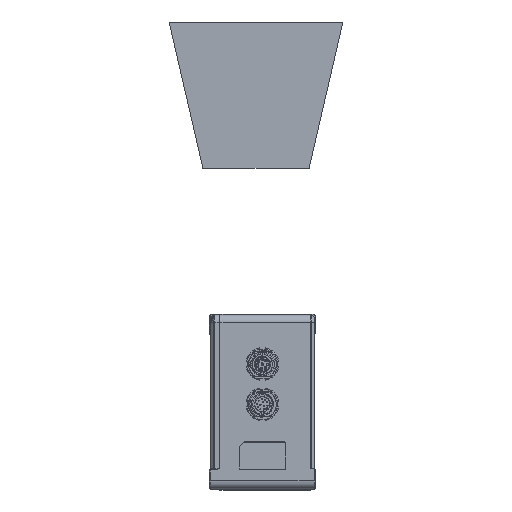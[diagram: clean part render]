
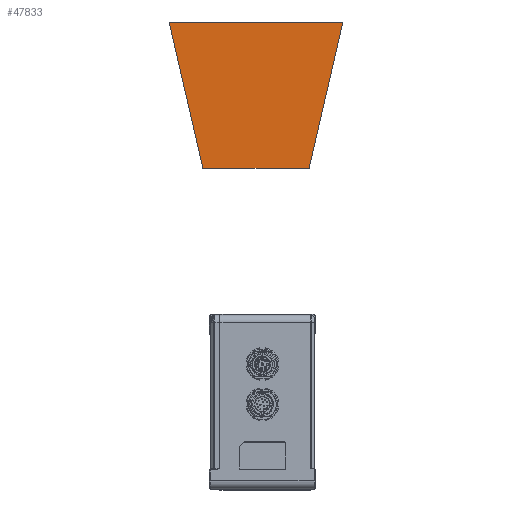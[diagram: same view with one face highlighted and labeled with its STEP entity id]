
A CAD part, left-side view. The second image highlights one B-rep face of the part: STEP entity #47833.
In plain terms, the highlighted planar face has unit normal (-1, 0, 0).
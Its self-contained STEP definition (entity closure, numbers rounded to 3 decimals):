
#47794=DIRECTION('',(0.,1.,0.));
#47795=VECTOR('',#47794,58.);
#47796=CARTESIAN_POINT('',(-605.475,36.318,
-197.858));
#47797=LINE('',#47796,#47795);
#47798=DIRECTION('',(0.,0.225,0.974));
#47799=VECTOR('',#47798,82.111);
#47800=CARTESIAN_POINT('',(-605.475,94.318,
-197.858));
#47801=LINE('',#47800,#47799);
#47802=DIRECTION('',(0.,-1.,0.));
#47803=VECTOR('',#47802,95.);
#47804=CARTESIAN_POINT('',(-605.475,112.818,
-117.858));
#47805=LINE('',#47804,#47803);
#47806=DIRECTION('',(0.,0.225,-0.974));
#47807=VECTOR('',#47806,82.111);
#47808=CARTESIAN_POINT('',(-605.475,17.818,
-117.858));
#47809=LINE('',#47808,#47807);
#47810=CARTESIAN_POINT('',(-605.475,94.318,
-197.858));
#47811=CARTESIAN_POINT('',(-605.475,36.318,
-197.858));
#47812=VERTEX_POINT('',#47810);
#47813=VERTEX_POINT('',#47811);
#47814=CARTESIAN_POINT('',(-605.475,17.818,
-117.858));
#47815=VERTEX_POINT('',#47814);
#47816=CARTESIAN_POINT('',(-605.475,112.818,
-117.858));
#47817=VERTEX_POINT('',#47816);
#47818=CARTESIAN_POINT('',(-605.475,0.,0.));
#47819=DIRECTION('',(-1.,0.,0.));
#47820=DIRECTION('',(0.,0.,1.));
#47821=AXIS2_PLACEMENT_3D('',#47818,#47819,#47820);
#47822=PLANE('',#47821);
#47824=ORIENTED_EDGE('',*,*,#47823,.T.);
#47826=ORIENTED_EDGE('',*,*,#47825,.T.);
#47828=ORIENTED_EDGE('',*,*,#47827,.T.);
#47830=ORIENTED_EDGE('',*,*,#47829,.T.);
#47831=EDGE_LOOP('',(#47824,#47826,#47828,#47830));
#47832=FACE_OUTER_BOUND('',#47831,.F.);
#47833=ADVANCED_FACE('',(#47832),#47822,.T.);
#47823=EDGE_CURVE('',#47813,#47812,#47797,.T.);
#47825=EDGE_CURVE('',#47812,#47817,#47801,.T.);
#47827=EDGE_CURVE('',#47817,#47815,#47805,.T.);
#47829=EDGE_CURVE('',#47815,#47813,#47809,.T.);
